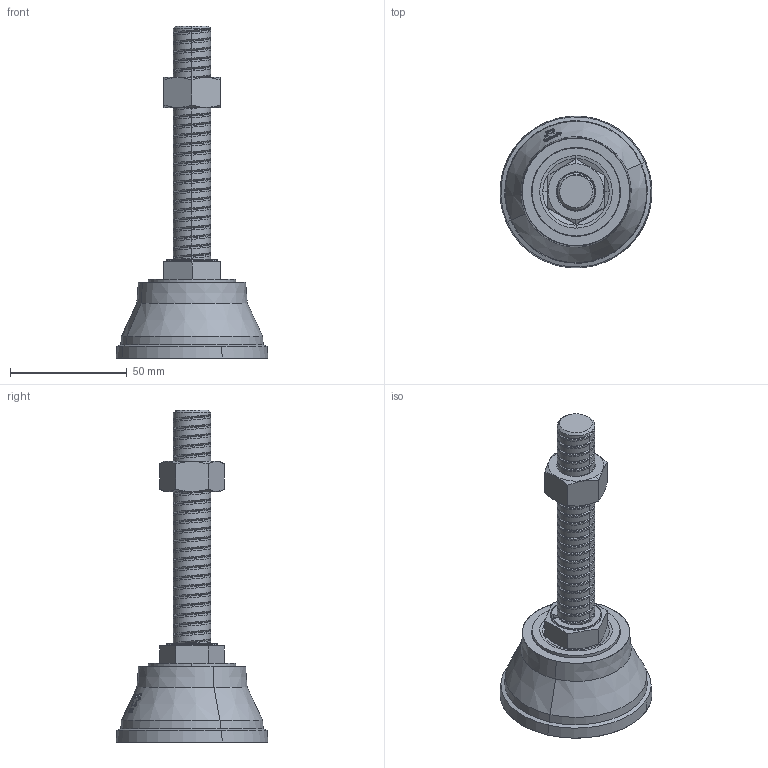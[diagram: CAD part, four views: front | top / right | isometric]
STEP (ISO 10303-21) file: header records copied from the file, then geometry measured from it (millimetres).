
FILE_DESCRIPTION (( 'STEP AP203' ), '1' );
FILE_NAME ('F-100-2-16-L.STEP', '2015-11-24T01:08:21', ( '' ), ( '' ), 'SwSTEP 2.0', 'SolidWorks 2014', '' );
FILE_SCHEMA (( 'CONFIG_CONTROL_DESIGN' ));
Length unit declared in the file: millimetre
Products named in the file (4): 90圓腳座-5-1; M16螺帽-1; DT-M16X100L-12調整螺絲-1; F-100-2-16-L
Assembly tree (3 placements, depth 2):
  F-100-2-16-L
    90圓腳座-5-1
    M16螺帽-1
    DT-M16X100L-12調整螺絲-1
Bounding box: 64.98 x 64.94 x 142 mm (x, y, z)
Volume: 33433.6 mm3; surface area: 28317.2 mm2
Topology: 3 solids, 289 shells, 445 faces, 1912 edges, 1742 vertices
Faces by surface type: bspline 217, cylinder 91, cone 82, plane 55
Entity records: 34017 total; most frequent: CARTESIAN_POINT 21128, ORIENTED_EDGE 2290, EDGE_CURVE 1892, VERTEX_POINT 1742, DIRECTION 1585, B_SPLINE_CURVE_WITH_KNOTS 855, VECTOR 691, LINE 691
